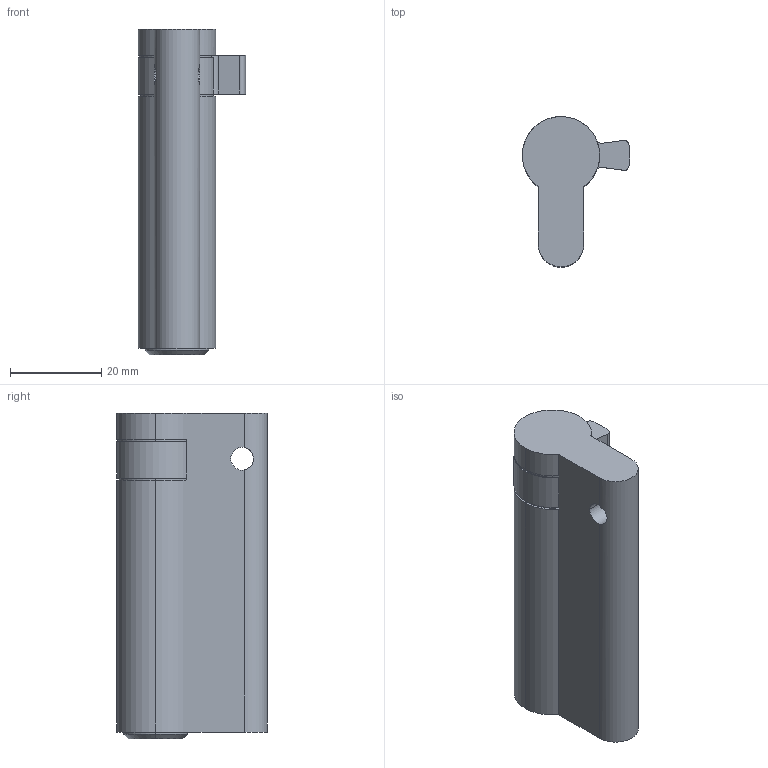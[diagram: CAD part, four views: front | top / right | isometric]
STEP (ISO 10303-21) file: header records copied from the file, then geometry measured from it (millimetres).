
FILE_DESCRIPTION (( 'STEP AP214' ), '1' );
FILE_NAME ('TPL-H-EU-512-L 29Oct2024.STEP', '2024-10-29T22:16:32', ( '' ), ( '' ), 'SwSTEP 2.0', 'SolidWorks 2023', '' );
FILE_SCHEMA (( 'AUTOMOTIVE_DESIGN' ));
Length unit declared in the file: millimetre
Products named in the file (1): TPL-H-EU-512-L 29Oct2024
Bounding box: 23.58 x 33 x 71.5 mm (x, y, z)
Volume: 26708.9 mm3; surface area: 7486.3 mm2
Topology: 1 solids, 1 shells, 45 faces, 124 edges, 78 vertices
Faces by surface type: cylinder 26, plane 16, cone 3
Entity records: 1540 total; most frequent: CARTESIAN_POINT 318, DIRECTION 271, ORIENTED_EDGE 248, EDGE_CURVE 124, AXIS2_PLACEMENT_3D 107, VERTEX_POINT 78, CIRCLE 61, LINE 57
